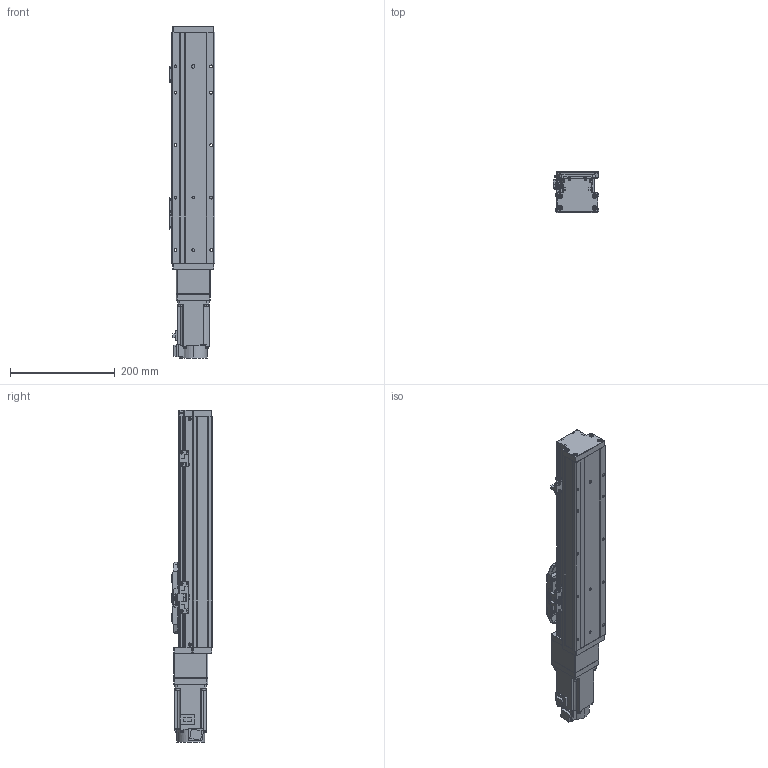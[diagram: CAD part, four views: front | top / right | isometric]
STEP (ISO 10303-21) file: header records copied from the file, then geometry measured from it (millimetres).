
FILE_DESCRIPTION (( 'STEP AP203' ), '1' );
FILE_NAME ('GTH8-250-BC-M20-C4.step', '2022-09-23T00:54:16', ( '微软用户' ), ( '微软中国' ), 'SwSTEP 2.0', 'SolidWorks 2020', '' );
FILE_SCHEMA (( 'CONFIG_CONTROL_DESIGN' ));
Length unit declared in the file: millimetre
Products named in the file (19): CTHA86-006-1_CTHA86-006-2; GTH80-003; GBT 70.1-M4×16; CTHA86-013; GTH80-004; GTH80-028; CTHA86-027; GTH80-006; GTH50-024; hg-kn43j_-s100_; GTH80-013; GTH50-023; GTH8-250-BC-M20-C4; GBT 70.3-M3℅6; GBT96.1-2002 3×0.8; GTH80-022; BTH-M3X5X6; GTH80-001_250; GBT 70.1-M3℅6
Assembly tree (60 placements, depth 2):
  GTH8-250-BC-M20-C4
    GTH80-001_250
    GTH80-003
    GTH80-004
    GTH80-006
    GTH80-013
    GBT 70.3-M3℅6  x6
    GTH80-022
    GBT 70.1-M3℅6  x14
    GBT 70.1-M4×16  x8
    GTH80-028  x2
    GTH50-024  x3
    GTH50-023  x3
    GBT96.1-2002 3×0.8  x6
    BTH-M3X5X6  x8
    CTHA86-006-1_CTHA86-006-2
    CTHA86-013
    CTHA86-027
    hg-kn43j_-s100_
Bounding box: 86.9 x 78 x 632.7 mm (x, y, z)
Volume: 2715809.4 mm3; surface area: 331005.2 mm2
Topology: 62 solids, 62 shells, 2219 faces, 5092 edges, 3099 vertices
Faces by surface type: plane 1173, cylinder 589, cone 285, torus 162, sphere 8, bspline 2
Entity records: 38372 total; most frequent: CARTESIAN_POINT 6335, DIRECTION 6282, ORIENTED_EDGE 5774, EDGE_CURVE 2887, AXIS2_PLACEMENT_3D 2188, LINE 1906, VECTOR 1906, VERTEX_POINT 1812
